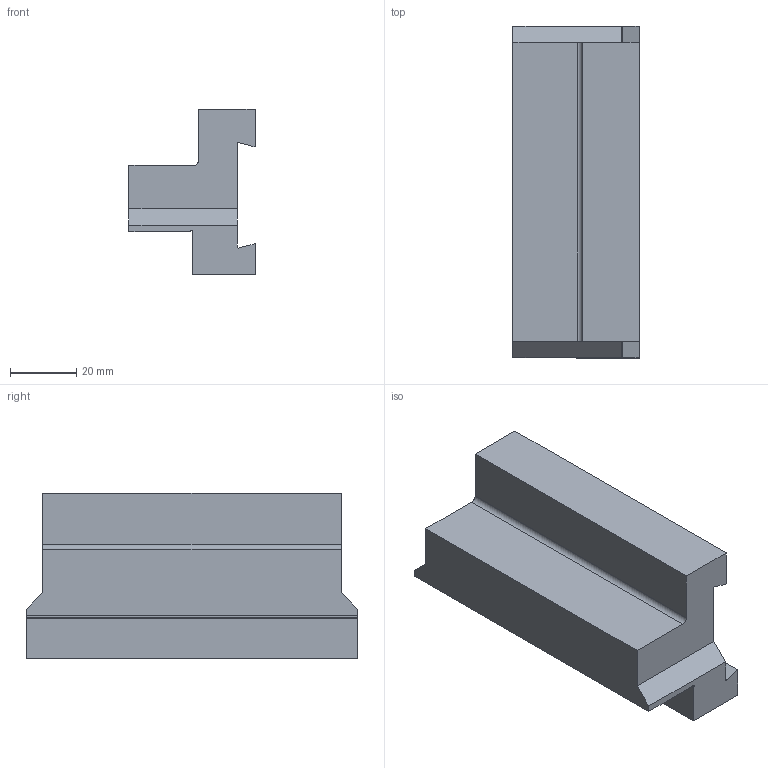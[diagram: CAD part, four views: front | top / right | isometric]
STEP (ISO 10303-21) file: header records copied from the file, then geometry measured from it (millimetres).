
FILE_DESCRIPTION(/* description */ (''),/* implementation_level */ '2;1');
FILE_NAME(/* name */ 'SMBB2032-HAAS.stp',/* time_stamp */ '2021-09-27T17:15:15+09:00',/* author */ (''),/* organization */ (''),/* preprocessor_version */ 'ST-DEVELOPER v16.7',/* originating_system */ 'SIEMENS PLM Software NX 1946',/* authorisation */ '');
FILE_SCHEMA (('AUTOMOTIVE_DESIGN { 1 0 10303 214 3 1 1 1 }'));
Length unit declared in the file: millimetre
Products named in the file (1): user41BC2A232gg6
Bounding box: 38 x 100 x 50 mm (x, y, z)
Volume: 105778.6 mm3; surface area: 20263.9 mm2
Topology: 1 solids, 1 shells, 23 faces, 63 edges, 42 vertices
Faces by surface type: plane 20, cylinder 3
Entity records: 755 total; most frequent: CARTESIAN_POINT 129, ORIENTED_EDGE 126, DIRECTION 117, EDGE_CURVE 63, LINE 57, VECTOR 57, VERTEX_POINT 42, AXIS2_PLACEMENT_3D 30
